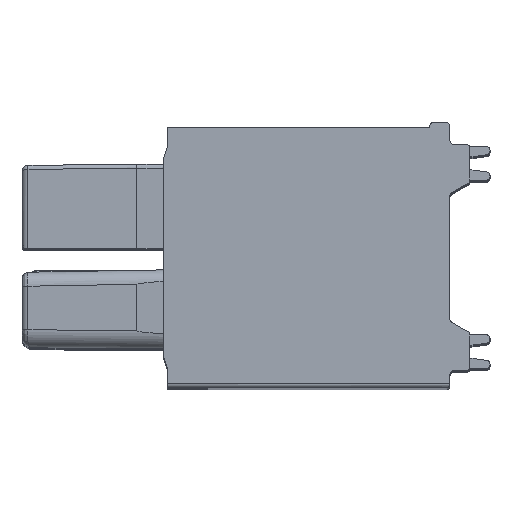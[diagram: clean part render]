
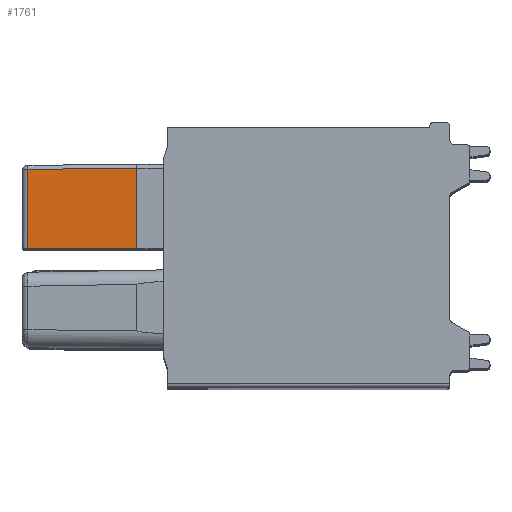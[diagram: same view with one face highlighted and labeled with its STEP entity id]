
A CAD part, top view. The second image highlights one B-rep face of the part: STEP entity #1761.
In plain terms, the highlighted planar face has unit normal (-0.009, 0, 1).
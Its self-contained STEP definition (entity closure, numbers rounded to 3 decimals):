
#1761=ADVANCED_FACE('',(#20006),#20005,.T.);
#20005=PLANE('',#45231);
#20006=FACE_OUTER_BOUND('',#45232,.T.);
#45228=CARTESIAN_POINT('',(19.095,52.67,-5.72));
#45229=DIRECTION('',(-0.009,0.,1.));
#45230=DIRECTION('',(0.,1.,0.));
#45231=AXIS2_PLACEMENT_3D('',#45228,#45229,#45230);
#45232=EDGE_LOOP('',(#62740,#62741,#62742,#62743,#62744));
#62740=ORIENTED_EDGE('',*,*,#73472,.F.);
#62741=ORIENTED_EDGE('',*,*,#73557,.T.);
#62742=ORIENTED_EDGE('',*,*,#73556,.T.);
#62743=ORIENTED_EDGE('',*,*,#73561,.T.);
#62744=ORIENTED_EDGE('',*,*,#73563,.T.);
#73472=EDGE_CURVE('',#108231,#108238,#108239,.T.);
#73556=EDGE_CURVE('',#108796,#108789,#108797,.T.);
#73557=EDGE_CURVE('',#108231,#108796,#108803,.T.);
#73561=EDGE_CURVE('',#108789,#108823,#108830,.T.);
#73563=EDGE_CURVE('',#108823,#108238,#108842,.T.);
#108231=VERTEX_POINT('',#146726);
#108238=VERTEX_POINT('',#146730);
#108239=LINE('',#146731,#146732);
#108789=VERTEX_POINT('',#147067);
#108796=VERTEX_POINT('',#147072);
#108797=LINE('',#147073,#147074);
#108803=LINE('',#147076,#147077);
#108823=VERTEX_POINT('',#147087);
#108830=LINE('',#147134,#147135);
#108842=LINE('',#147157,#147158);
#146726=CARTESIAN_POINT('',(18.552,57.087,-5.725));
#146730=CARTESIAN_POINT('',(18.552,53.072,-5.725));
#146731=CARTESIAN_POINT('',(18.552,57.087,-5.725));
#146732=VECTOR('',#146733,4.015);
#146733=DIRECTION('',(0.,-1.,0.));
#147067=CARTESIAN_POINT('',(13.12,57.04,-5.772));
#147072=CARTESIAN_POINT('',(13.331,57.041,-5.771));
#147073=CARTESIAN_POINT('',(13.331,57.041,-5.771));
#147074=VECTOR('',#147075,0.211);
#147075=DIRECTION('',(-1.,-0.009,-0.009));
#147076=CARTESIAN_POINT('',(18.552,57.087,-5.725));
#147077=VECTOR('',#147078,5.221);
#147078=DIRECTION('',(-1.,-0.009,-0.009));
#147087=CARTESIAN_POINT('',(13.12,53.072,-5.772));
#147134=CARTESIAN_POINT('',(13.12,57.04,-5.772));
#147135=VECTOR('',#147136,3.968);
#147136=DIRECTION('',(0.,-1.,0.));
#147157=CARTESIAN_POINT('',(13.12,53.072,-5.772));
#147158=VECTOR('',#147159,5.432);
#147159=DIRECTION('',(1.,0.,0.009));
